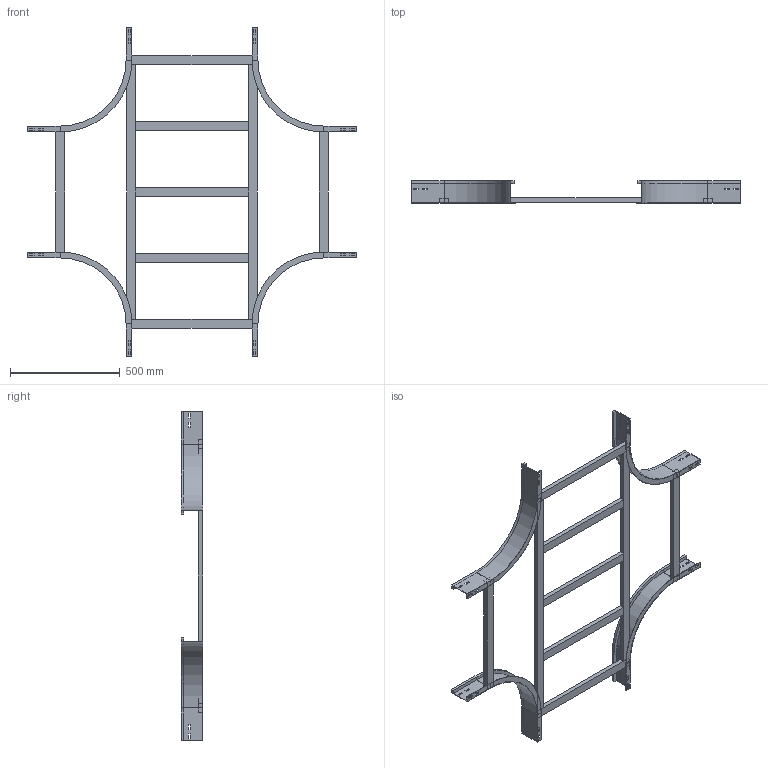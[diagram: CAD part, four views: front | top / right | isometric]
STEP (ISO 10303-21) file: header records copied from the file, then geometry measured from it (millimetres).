
FILE_DESCRIPTION (( 'STEP AP214' ), '1' );
FILE_NAME ('A2_17B3D600.step', '2025-02-21T15:55:10', ( '' ), ( '' ), 'SwSTEP 2.0', 'SolidWorks 2023', '' );
FILE_SCHEMA (( 'AUTOMOTIVE_DESIGN' ));
Length unit declared in the file: millimetre
Products named in the file (5): A2_LONGH.INTERNO 90°_H100_R300; A2_17B3D600; A2_TRAVERSINO_LONG._R300+600; TRAVERSINO_600; TRAVERSINO_INTERMEDIO_R300+600
Assembly tree (13 placements, depth 2):
  A2_17B3D600
    A2_LONGH.INTERNO 90°_H100_R300  x4
    TRAVERSINO_600  x4
    A2_TRAVERSINO_LONG._R300+600  x2
    TRAVERSINO_INTERMEDIO_R300+600  x3
Bounding box: 1500 x 100 x 1500 mm (x, y, z)
Volume: 6432450 mm3; surface area: 1659645.5 mm2
Topology: 13 solids, 13 shells, 286 faces, 716 edges, 456 vertices
Faces by surface type: plane 270, cylinder 16
Entity records: 2450 total; most frequent: CARTESIAN_POINT 400, DIRECTION 380, ORIENTED_EDGE 376, EDGE_CURVE 188, LINE 180, VECTOR 180, VERTEX_POINT 120, AXIS2_PLACEMENT_3D 100
